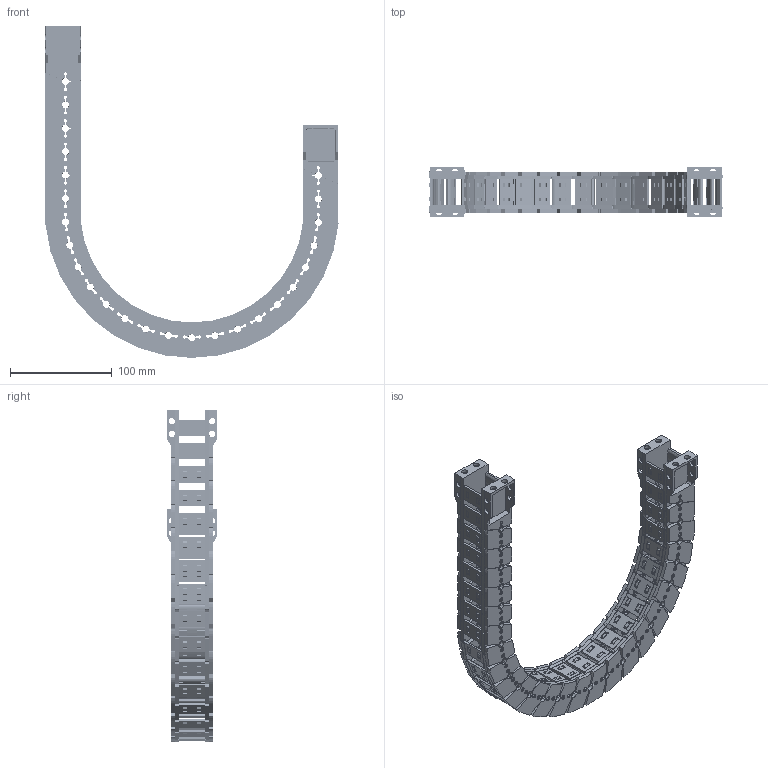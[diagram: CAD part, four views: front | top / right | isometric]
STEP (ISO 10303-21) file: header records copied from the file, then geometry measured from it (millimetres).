
FILE_DESCRIPTION(/* description */ (''),/* implementation_level */ '2;1');
FILE_NAME(/* name */ 'JY28-25-R125.stp',/* time_stamp */ '2026-06-03T13:32:33+08:00',/* author */ (''),/* organization */ (''),/* preprocessor_version */ 'ST-DEVELOPER v19.4',/* originating_system */ 'SIEMENS PLM Software NX2306.5001',/* authorisation */ '');
FILE_SCHEMA (('AP203_CONFIGURATION_CONTROLLED_3D_DESIGN_OF_MECHANICAL_PARTS_AND_ASSEMBLIES_MIM_LF { 1 0 10303 403 2 1 2}'));
Products named in the file (1): _model1_objects
Bounding box: 287.57 x 49.5 x 325.62 mm (x, y, z)
Volume: 341900.4 mm3; surface area: 251667 mm2
Topology: 98 solids, 98 shells, 8138 faces, 23150 edges, 15130 vertices
Faces by surface type: plane 5330, cone 1480, cylinder 1278, bspline 48, torus 2
Full cylindrical faces by diameter (mm): 6 x24
Entity records: 275371 total; most frequent: CARTESIAN_POINT 61217, ORIENTED_EDGE 46208, DIRECTION 43382, EDGE_CURVE 23104, LINE 15292, VECTOR 15292, VERTEX_POINT 15108, AXIS2_PLACEMENT_3D 14045
